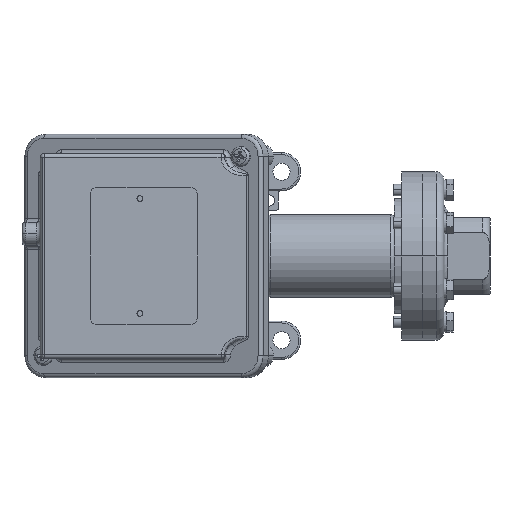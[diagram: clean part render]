
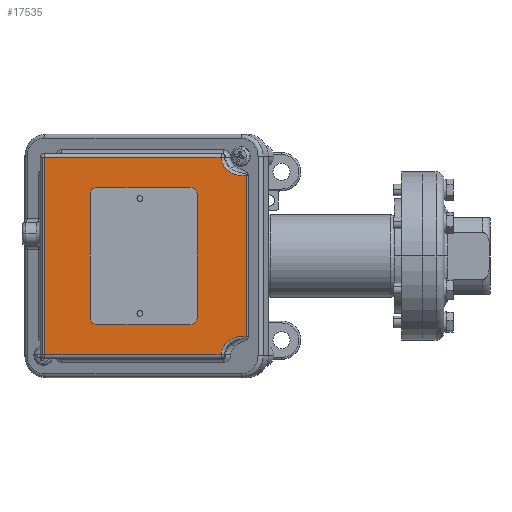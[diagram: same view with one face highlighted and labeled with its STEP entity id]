
A CAD part, left-side view. The second image highlights one B-rep face of the part: STEP entity #17535.
In plain terms, the highlighted planar face has unit normal (-1, 0.005, 0).
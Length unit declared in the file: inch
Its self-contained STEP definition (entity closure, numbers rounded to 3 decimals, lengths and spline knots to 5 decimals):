
#367 = LINE ( 'NONE', #8327, #1768 ) ;
#477 = AXIS2_PLACEMENT_3D ( 'NONE', #28833, #12391, #9546 ) ;
#684 = VERTEX_POINT ( 'NONE', #29878 ) ;
#1457 = FACE_BOUND ( 'NONE', #24433, .T. ) ;
#1509 = LINE ( 'NONE', #3576, #13719 ) ;
#1768 = VECTOR ( 'NONE', #22345, 39.37008 ) ;
#1816 = CARTESIAN_POINT ( 'NONE',  ( -2.32276, 0.19397, -1.32146 ) ) ;
#1924 = DIRECTION ( 'NONE',  ( 1., -0.005, 0. ) ) ;
#2015 = CARTESIAN_POINT ( 'NONE',  ( -2.32057, 0.61286, 1.61 ) ) ;
#2176 = CARTESIAN_POINT ( 'NONE',  ( -2.32057, 0.61286, 1.61 ) ) ;
#2442 = EDGE_CURVE ( 'NONE', #28024, #11093, #367, .T. ) ;
#2841 = AXIS2_PLACEMENT_3D ( 'NONE', #20175, #29903, #16975 ) ;
#3483 = EDGE_CURVE ( 'NONE', #684, #15325, #4430, .T. ) ;
#3576 = CARTESIAN_POINT ( 'NONE',  ( -2.32081, 0.56672, -1.61 ) ) ;
#3879 = AXIS2_PLACEMENT_3D ( 'NONE', #28228, #1924, #14302 ) ;
#4119 = DIRECTION ( 'NONE',  ( -1., 0.005, 0. ) ) ;
#4430 = CIRCLE ( 'NONE', #21727, 0.0465 ) ;
#4990 = DIRECTION ( 'NONE',  ( -0.005, -1., 0. ) ) ;
#5323 = EDGE_CURVE ( 'NONE', #9959, #11719, #13511, .T. ) ;
#5512 = EDGE_CURVE ( 'NONE', #15325, #684, #9446, .T. ) ;
#5651 = CARTESIAN_POINT ( 'NONE',  ( -2.32276, 0.19397, 1.32146 ) ) ;
#6173 = ORIENTED_EDGE ( 'NONE', *, *, #13445, .T. ) ;
#7263 = CARTESIAN_POINT ( 'NONE',  ( -2.3055, 3.50088, 1.61 ) ) ;
#8327 = CARTESIAN_POINT ( 'NONE',  ( -2.3055, 3.50088, 1.6725 ) ) ;
#8762 = CARTESIAN_POINT ( 'NONE',  ( -2.32282, 0.18143, 1.61 ) ) ;
#8986 = CARTESIAN_POINT ( 'NONE',  ( -2.31341, 1.9849, 0.937 ) ) ;
#9446 = CIRCLE ( 'NONE', #9971, 0.0465 ) ;
#9546 = DIRECTION ( 'NONE',  ( -0.005, -1., 0. ) ) ;
#9891 = CARTESIAN_POINT ( 'NONE',  ( -2.32159, 0.41746, -1.27099 ) ) ;
#9959 = VERTEX_POINT ( 'NONE', #8986 ) ;
#9971 = AXIS2_PLACEMENT_3D ( 'NONE', #17104, #26808, #4990 ) ;
#9997 = VERTEX_POINT ( 'NONE', #1816 ) ;
#11093 = VERTEX_POINT ( 'NONE', #29277 ) ;
#11155 = DIRECTION ( 'NONE',  ( 0.005, 1., 0. ) ) ;
#11177 = FACE_OUTER_BOUND ( 'NONE', #14657, .T. ) ;
#11279 = ORIENTED_EDGE ( 'NONE', *, *, #28861, .T. ) ;
#11719 = VERTEX_POINT ( 'NONE', #31482 ) ;
#12391 = DIRECTION ( 'NONE',  ( -1., 0.005, 0. ) ) ;
#12437 = EDGE_LOOP ( 'NONE', ( #23046, #13170 ) ) ;
#13116 = DIRECTION ( 'NONE',  ( -0.005, -1., 0. ) ) ;
#13170 = ORIENTED_EDGE ( 'NONE', *, *, #5323, .F. ) ;
#13445 = EDGE_CURVE ( 'NONE', #9997, #21478, #18879, .T. ) ;
#13470 = ORIENTED_EDGE ( 'NONE', *, *, #2442, .T. ) ;
#13511 = CIRCLE ( 'NONE', #2841, 0.0465 ) ;
#13552 = FACE_BOUND ( 'NONE', #12437, .T. ) ;
#13719 = VECTOR ( 'NONE', #13116, 39.37008 ) ;
#14097 = CARTESIAN_POINT ( 'NONE',  ( -2.32276, 0.19397, 1.32146 ) ) ;
#14302 = DIRECTION ( 'NONE',  ( 0.005, 1., 0. ) ) ;
#14657 = EDGE_LOOP ( 'NONE', ( #13470, #25288, #25589, #6173, #20808, #11279 ) ) ;
#15325 = VERTEX_POINT ( 'NONE', #24351 ) ;
#15738 = LINE ( 'NONE', #8762, #25075 ) ;
#15756 = ORIENTED_EDGE ( 'NONE', *, *, #3483, .F. ) ;
#16789 = CARTESIAN_POINT ( 'NONE',  ( -2.32276, 0.19397, 1.6725 ) ) ;
#16975 = DIRECTION ( 'NONE',  ( -0.005, -1., 0. ) ) ;
#17104 = CARTESIAN_POINT ( 'NONE',  ( -2.31365, 1.9384, -0.938 ) ) ;
#17535 = ADVANCED_FACE ( 'NONE', ( #13552, #1457, #11177 ), #20892, .F. ) ;
#18788 = VERTEX_POINT ( 'NONE', #24589 ) ;
#18879 = LINE ( 'NONE', #16789, #25524 ) ;
#18973 = EDGE_CURVE ( 'NONE', #11719, #9959, #30528, .T. ) ;
#19283 = CARTESIAN_POINT ( 'NONE',  ( -2.32057, 0.61286, -1.61 ) ) ;
#20175 = CARTESIAN_POINT ( 'NONE',  ( -2.31365, 1.9384, 0.937 ) ) ;
#20638 = EDGE_CURVE ( 'NONE', #11093, #18788, #1509, .T. ) ;
#20808 = ORIENTED_EDGE ( 'NONE', *, *, #26569, .T. ) ;
#20892 = PLANE ( 'NONE',  #3879 ) ;
#21478 = VERTEX_POINT ( 'NONE', #5651 ) ;
#21727 = AXIS2_PLACEMENT_3D ( 'NONE', #27698, #4119, #30418 ) ;
#21837 = CARTESIAN_POINT ( 'NONE',  ( -2.32063, 0.60182, -1.39798 ) ) ;
#22345 = DIRECTION ( 'NONE',  ( 0., 0., -1. ) ) ;
#23046 = ORIENTED_EDGE ( 'NONE', *, *, #18973, .F. ) ;
#23852 = CARTESIAN_POINT ( 'NONE',  ( -2.32063, 0.60182, 1.39798 ) ) ;
#24351 = CARTESIAN_POINT ( 'NONE',  ( -2.31389, 1.8919, -0.938 ) ) ;
#24433 = EDGE_LOOP ( 'NONE', ( #29587, #15756 ) ) ;
#24589 = CARTESIAN_POINT ( 'NONE',  ( -2.32057, 0.61286, -1.61 ) ) ;
#24649 = VERTEX_POINT ( 'NONE', #2176 ) ;
#24740 =( BOUNDED_CURVE ( )  B_SPLINE_CURVE ( 3, ( #19283, #21837, #9891, #31096 ),
 .UNSPECIFIED., .F., .T. ) 
 B_SPLINE_CURVE_WITH_KNOTS ( ( 4, 4 ),
 ( 3.18961, 4.95247 ),
 .UNSPECIFIED. ) 
 CURVE ( )  GEOMETRIC_REPRESENTATION_ITEM ( )  RATIONAL_B_SPLINE_CURVE ( ( 1., 0.757, 0.757, 1. ) ) 
 REPRESENTATION_ITEM ( '' )  );
#25075 = VECTOR ( 'NONE', #11155, 39.37008 ) ;
#25288 = ORIENTED_EDGE ( 'NONE', *, *, #20638, .T. ) ;
#25524 = VECTOR ( 'NONE', #26515, 39.37008 ) ;
#25589 = ORIENTED_EDGE ( 'NONE', *, *, #30543, .T. ) ;
#26515 = DIRECTION ( 'NONE',  ( 0., 0., 1. ) ) ;
#26534 = CARTESIAN_POINT ( 'NONE',  ( -2.32159, 0.41746, 1.27099 ) ) ;
#26569 = EDGE_CURVE ( 'NONE', #21478, #24649, #28185, .T. ) ;
#26808 = DIRECTION ( 'NONE',  ( -1., 0.005, 0. ) ) ;
#27698 = CARTESIAN_POINT ( 'NONE',  ( -2.31365, 1.9384, -0.938 ) ) ;
#28024 = VERTEX_POINT ( 'NONE', #7263 ) ;
#28185 =( BOUNDED_CURVE ( )  B_SPLINE_CURVE ( 3, ( #14097, #26534, #23852, #2015 ),
 .UNSPECIFIED., .F., .F. ) 
 B_SPLINE_CURVE_WITH_KNOTS ( ( 4, 4 ),
 ( 1.33072, 3.09357 ),
 .UNSPECIFIED. ) 
 CURVE ( )  GEOMETRIC_REPRESENTATION_ITEM ( )  RATIONAL_B_SPLINE_CURVE ( ( 1., 0.757, 0.757, 1. ) ) 
 REPRESENTATION_ITEM ( '' )  );
#28228 = CARTESIAN_POINT ( 'NONE',  ( -2.32282, 0.18143, 1.6725 ) ) ;
#28833 = CARTESIAN_POINT ( 'NONE',  ( -2.31365, 1.9384, 0.937 ) ) ;
#28861 = EDGE_CURVE ( 'NONE', #24649, #28024, #15738, .T. ) ;
#29277 = CARTESIAN_POINT ( 'NONE',  ( -2.3055, 3.50088, -1.61 ) ) ;
#29587 = ORIENTED_EDGE ( 'NONE', *, *, #5512, .F. ) ;
#29878 = CARTESIAN_POINT ( 'NONE',  ( -2.31341, 1.9849, -0.938 ) ) ;
#29903 = DIRECTION ( 'NONE',  ( -1., 0.005, 0. ) ) ;
#30418 = DIRECTION ( 'NONE',  ( -0.005, -1., 0. ) ) ;
#30528 = CIRCLE ( 'NONE', #477, 0.0465 ) ;
#30543 = EDGE_CURVE ( 'NONE', #18788, #9997, #24740, .T. ) ;
#31096 = CARTESIAN_POINT ( 'NONE',  ( -2.32276, 0.19397, -1.32146 ) ) ;
#31482 = CARTESIAN_POINT ( 'NONE',  ( -2.31389, 1.8919, 0.937 ) ) ;
